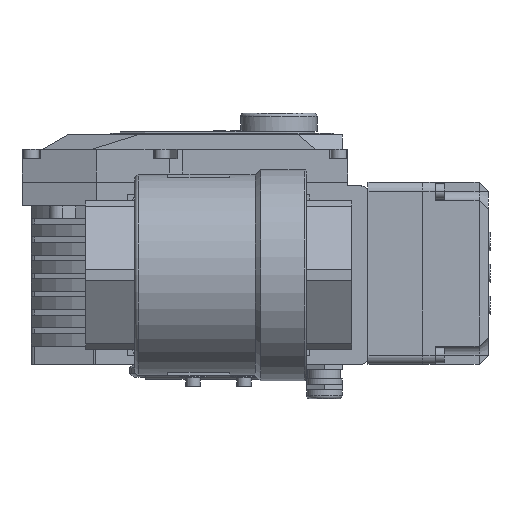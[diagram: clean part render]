
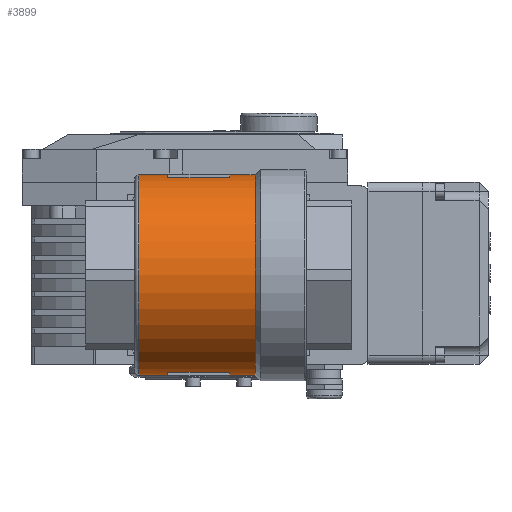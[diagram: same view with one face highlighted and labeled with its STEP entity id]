
A CAD part, front view. The second image highlights one B-rep face of the part: STEP entity #3899.
In plain terms, the highlighted cylindrical face has radius 55 mm (diameter 110 mm), a partial arc.
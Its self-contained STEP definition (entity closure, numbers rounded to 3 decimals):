
#1044=DIRECTION('',(1.,0.,0.));
#1045=VECTOR('',#1044,16.);
#1046=CARTESIAN_POINT('',(-44.,0.,-55.));
#1047=LINE('',#1046,#1045);
#1062=DIRECTION('',(1.,0.,0.));
#1063=VECTOR('',#1062,14.);
#1064=CARTESIAN_POINT('',(6.,0.,-55.));
#1065=LINE('',#1064,#1063);
#1161=CARTESIAN_POINT('',(6.,0.,0.));
#1162=DIRECTION('',(1.,0.,0.));
#1163=DIRECTION('',(0.,0.,1.));
#1164=AXIS2_PLACEMENT_3D('',#1161,#1162,#1163);
#1166=DIRECTION('',(1.,0.,0.));
#1167=VECTOR('',#1166,14.);
#1168=CARTESIAN_POINT('',(6.,0.,55.));
#1169=LINE('',#1168,#1167);
#1170=CARTESIAN_POINT('',(6.,0.,0.));
#1171=DIRECTION('',(1.,0.,0.));
#1172=DIRECTION('',(0.,-0.236,-0.972));
#1173=AXIS2_PLACEMENT_3D('',#1170,#1171,#1172);
#1175=DIRECTION('',(1.,0.,0.));
#1176=VECTOR('',#1175,34.);
#1177=CARTESIAN_POINT('',(-28.,-13.,-53.442));
#1178=LINE('',#1177,#1176);
#1179=CARTESIAN_POINT('',(-28.,0.,0.));
#1180=DIRECTION('',(1.,0.,0.));
#1181=DIRECTION('',(0.,-0.236,-0.972));
#1182=AXIS2_PLACEMENT_3D('',#1179,#1180,#1181);
#1184=CARTESIAN_POINT('',(-44.,0.,0.));
#1185=DIRECTION('',(-1.,0.,0.));
#1186=DIRECTION('',(0.,0.,-1.));
#1187=AXIS2_PLACEMENT_3D('',#1184,#1185,#1186);
#1189=DIRECTION('',(1.,0.,0.));
#1190=VECTOR('',#1189,16.);
#1191=CARTESIAN_POINT('',(-44.,0.,55.));
#1192=LINE('',#1191,#1190);
#1193=CARTESIAN_POINT('',(-28.,0.,0.));
#1194=DIRECTION('',(1.,0.,0.));
#1195=DIRECTION('',(0.,0.,1.));
#1196=AXIS2_PLACEMENT_3D('',#1193,#1194,#1195);
#1198=DIRECTION('',(1.,0.,0.));
#1199=VECTOR('',#1198,34.);
#1200=CARTESIAN_POINT('',(-28.,-13.,53.442));
#1201=LINE('',#1200,#1199);
#1213=CARTESIAN_POINT('',(20.,0.,0.));
#1214=DIRECTION('',(-1.,0.,0.));
#1215=DIRECTION('',(0.,0.,-1.));
#1216=AXIS2_PLACEMENT_3D('',#1213,#1214,#1215);
#2338=CARTESIAN_POINT('',(6.,0.,-55.));
#2339=VERTEX_POINT('',#2338);
#2340=CARTESIAN_POINT('',(-28.,0.,-55.));
#2341=VERTEX_POINT('',#2340);
#2342=CARTESIAN_POINT('',(6.,-13.,-53.442));
#2343=VERTEX_POINT('',#2342);
#2344=CARTESIAN_POINT('',(-28.,-13.,-53.442));
#2345=VERTEX_POINT('',#2344);
#2354=CARTESIAN_POINT('',(6.,0.,55.));
#2355=VERTEX_POINT('',#2354);
#2356=CARTESIAN_POINT('',(-28.,0.,55.));
#2357=VERTEX_POINT('',#2356);
#2362=CARTESIAN_POINT('',(6.,-13.,53.442));
#2363=VERTEX_POINT('',#2362);
#2364=CARTESIAN_POINT('',(-28.,-13.,53.442));
#2365=VERTEX_POINT('',#2364);
#2370=CARTESIAN_POINT('',(-44.,0.,-55.));
#2371=CARTESIAN_POINT('',(-44.,0.,55.));
#2372=VERTEX_POINT('',#2370);
#2373=VERTEX_POINT('',#2371);
#2450=CARTESIAN_POINT('',(20.,0.,-55.));
#2451=VERTEX_POINT('',#2450);
#2452=CARTESIAN_POINT('',(20.,0.,55.));
#2453=VERTEX_POINT('',#2452);
#3874=CARTESIAN_POINT('',(-46.,0.,0.));
#3875=DIRECTION('',(1.,0.,0.));
#3876=DIRECTION('',(0.,0.,-1.));
#3877=AXIS2_PLACEMENT_3D('',#3874,#3875,#3876);
#3878=CYLINDRICAL_SURFACE('',#3877,55.);
#3879=ORIENTED_EDGE('',*,*,#3867,.F.);
#3880=ORIENTED_EDGE('',*,*,#3785,.T.);
#3882=ORIENTED_EDGE('',*,*,#3881,.F.);
#3883=ORIENTED_EDGE('',*,*,#3772,.F.);
#3885=ORIENTED_EDGE('',*,*,#3884,.F.);
#3887=ORIENTED_EDGE('',*,*,#3886,.F.);
#3889=ORIENTED_EDGE('',*,*,#3888,.T.);
#3890=ORIENTED_EDGE('',*,*,#3764,.F.);
#3892=ORIENTED_EDGE('',*,*,#3891,.T.);
#3893=ORIENTED_EDGE('',*,*,#3760,.T.);
#3894=ORIENTED_EDGE('',*,*,#3816,.T.);
#3896=ORIENTED_EDGE('',*,*,#3895,.T.);
#3897=EDGE_LOOP('',(#3879,#3880,#3882,#3883,#3885,#3887,#3889,#3890,#3892,#3893,
#3894,#3896));
#3898=FACE_OUTER_BOUND('',#3897,.F.);
#3899=ADVANCED_FACE('',(#3898),#3878,.T.);
#1165=CIRCLE('',#1164,55.);
#1174=CIRCLE('',#1173,55.);
#1183=CIRCLE('',#1182,55.);
#1188=CIRCLE('',#1187,55.);
#1197=CIRCLE('',#1196,55.);
#1217=CIRCLE('',#1216,55.);
#3760=EDGE_CURVE('',#2373,#2357,#1192,.T.);
#3764=EDGE_CURVE('',#2372,#2341,#1047,.T.);
#3772=EDGE_CURVE('',#2339,#2451,#1065,.T.);
#3785=EDGE_CURVE('',#2355,#2453,#1169,.T.);
#3816=EDGE_CURVE('',#2357,#2365,#1197,.T.);
#3867=EDGE_CURVE('',#2355,#2363,#1165,.T.);
#3881=EDGE_CURVE('',#2451,#2453,#1217,.T.);
#3884=EDGE_CURVE('',#2343,#2339,#1174,.T.);
#3886=EDGE_CURVE('',#2345,#2343,#1178,.T.);
#3888=EDGE_CURVE('',#2345,#2341,#1183,.T.);
#3891=EDGE_CURVE('',#2372,#2373,#1188,.T.);
#3895=EDGE_CURVE('',#2365,#2363,#1201,.T.);
